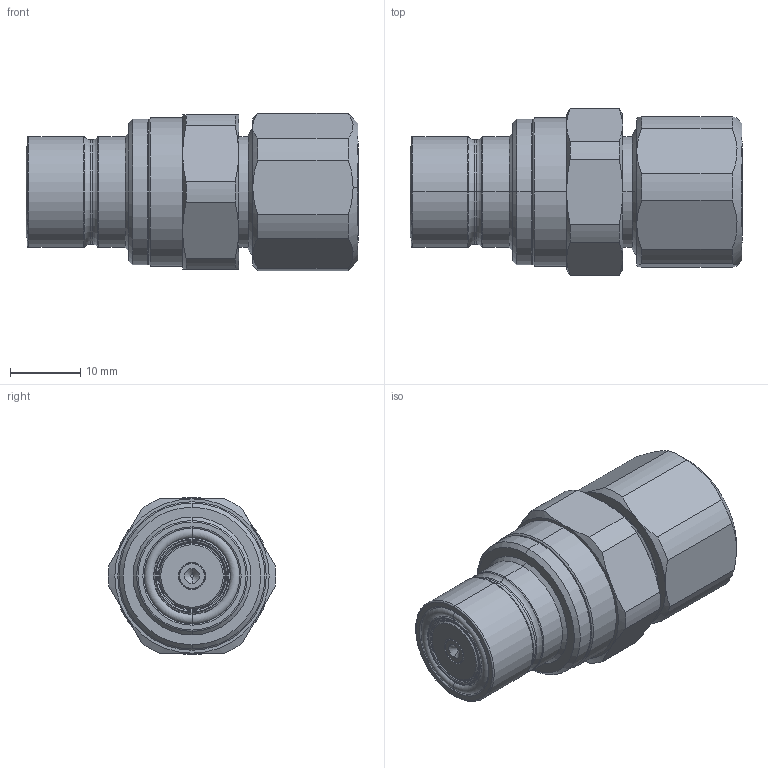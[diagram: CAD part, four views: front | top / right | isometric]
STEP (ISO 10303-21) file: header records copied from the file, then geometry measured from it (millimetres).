
FILE_DESCRIPTION (( 'STEP AP203' ), '1' );
FILE_NAME ('QD3-MT10X13.STEP', '2025-01-02T02:13:12', ( 'aksong' ), ( '' ), 'SwSTEP 2.0', 'SolidWorks 2012', '' );
FILE_SCHEMA (( 'CONFIG_CONTROL_DESIGN' ));
Length unit declared in the file: millimetre
Products named in the file (4): QD3-MT10X13; Compression 10X13 cap nut; male body; Compression 10X13, male 喻闌
Assembly tree (3 placements, depth 2):
  QD3-MT10X13
    male body
    Compression 10X13, male 喻闌
    Compression 10X13 cap nut
Bounding box: 47.33 x 23.88 x 22.4 mm (x, y, z)
Volume: 11777.3 mm3; surface area: 7386.4 mm2
Topology: 3 solids, 3 shells, 251 faces, 528 edges, 298 vertices
Faces by surface type: cone 104, cylinder 86, plane 33, torus 28
Entity records: 7206 total; most frequent: CARTESIAN_POINT 1315, DIRECTION 1292, ORIENTED_EDGE 1056, AXIS2_PLACEMENT_3D 551, EDGE_CURVE 528, VERTEX_POINT 298, CIRCLE 294, EDGE_LOOP 270
